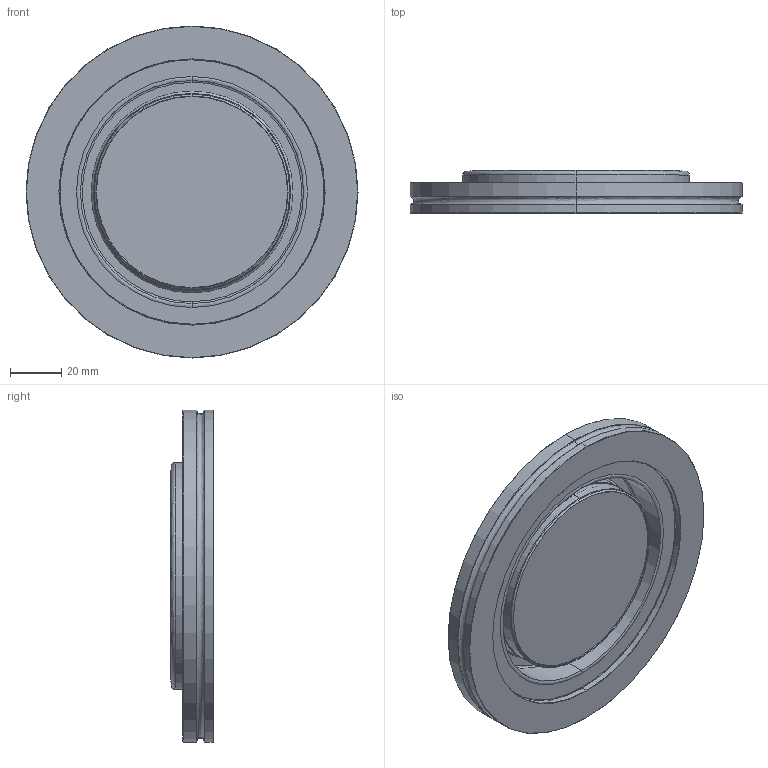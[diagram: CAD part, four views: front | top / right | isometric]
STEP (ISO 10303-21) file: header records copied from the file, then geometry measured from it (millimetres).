
FILE_DESCRIPTION (( 'STEP AP203' ), '1' );
FILE_NAME ('115051.stp', '2022-05-12T15:24:25', ( '' ), ( '' ), 'SwSTEP 2.0', 'SolidWorks 2012', '' );
FILE_SCHEMA (( 'CONFIG_CONTROL_DESIGN' ));
Length unit declared in the file: inch
Products named in the file (1): 115051
Bounding box: 130 x 16.76 x 130 mm (x, y, z)
Volume: 92700.2 mm3; surface area: 43942.7 mm2
Topology: 1 solids, 1 shells, 88 faces, 196 edges, 118 vertices
Faces by surface type: cone 28, bspline 26, cylinder 24, plane 10
Entity records: 3574 total; most frequent: CARTESIAN_POINT 1564, DIRECTION 442, ORIENTED_EDGE 392, EDGE_CURVE 196, AXIS2_PLACEMENT_3D 195, CIRCLE 132, VERTEX_POINT 118, EDGE_LOOP 96
